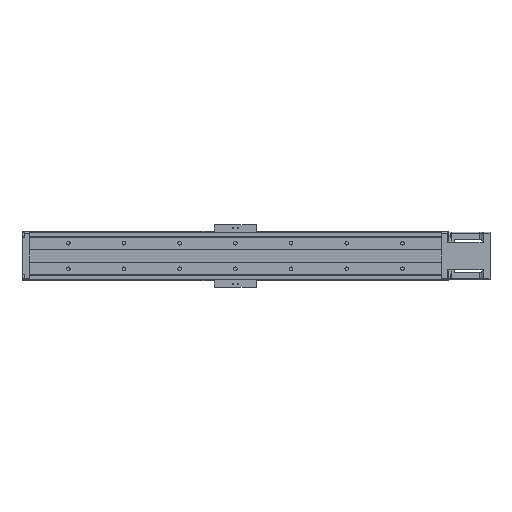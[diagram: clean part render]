
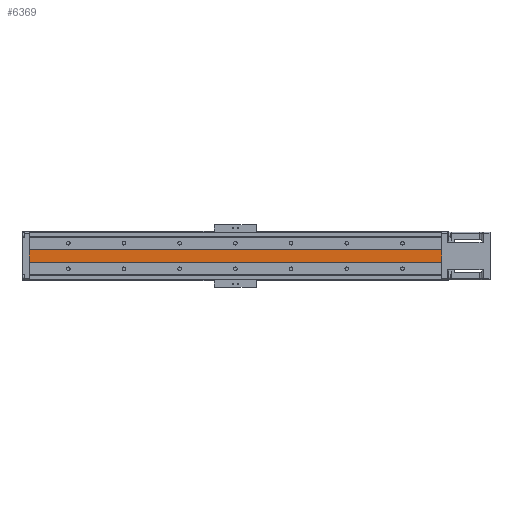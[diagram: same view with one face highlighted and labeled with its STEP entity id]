
A CAD part, front view. The second image highlights one B-rep face of the part: STEP entity #6369.
In plain terms, the highlighted planar face has unit normal (0, -1, 0).
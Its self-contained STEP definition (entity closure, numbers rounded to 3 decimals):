
#523 = CARTESIAN_POINT ( 'NONE',  ( 320., -31.5, -11. ) ) ;
#742 = CARTESIAN_POINT ( 'NONE',  ( 320., -31.5, 11. ) ) ;
#3964 = FACE_OUTER_BOUND ( 'NONE', #7563, .T. ) ;
#3995 = LINE ( 'NONE', #9917, #21104 ) ;
#4938 = LINE ( 'NONE', #4980, #10024 ) ;
#4980 = CARTESIAN_POINT ( 'NONE',  ( -420., -31.5, -5.5 ) ) ;
#5039 = VERTEX_POINT ( 'NONE', #15417 ) ;
#5091 = DIRECTION ( 'NONE',  ( 0., -1., 0. ) ) ;
#6120 = EDGE_CURVE ( 'NONE', #5039, #20554, #3995, .T. ) ;
#6369 = ADVANCED_FACE ( 'NONE', ( #3964 ), #17254, .T. ) ;
#6732 = DIRECTION ( 'NONE',  ( 1., 0., 0. ) ) ;
#7563 = EDGE_LOOP ( 'NONE', ( #8971, #9376, #20283, #26598 ) ) ;
#8022 = VECTOR ( 'NONE', #14176, 1000. ) ;
#8028 = DIRECTION ( 'NONE',  ( 1., 0., 0. ) ) ;
#8971 = ORIENTED_EDGE ( 'NONE', *, *, #13127, .T. ) ;
#9333 = LINE ( 'NONE', #18449, #8022 ) ;
#9376 = ORIENTED_EDGE ( 'NONE', *, *, #16018, .T. ) ;
#9917 = CARTESIAN_POINT ( 'NONE',  ( -420., -31.5, 11. ) ) ;
#10024 = VECTOR ( 'NONE', #21628, 1000. ) ;
#10501 = CARTESIAN_POINT ( 'NONE',  ( 320., -31.5, -11. ) ) ;
#10775 = VERTEX_POINT ( 'NONE', #25260 ) ;
#11257 = DIRECTION ( 'NONE',  ( -1., 0., 0. ) ) ;
#13127 = EDGE_CURVE ( 'NONE', #5039, #10775, #4938, .T. ) ;
#13791 = VECTOR ( 'NONE', #6732, 1000. ) ;
#14176 = DIRECTION ( 'NONE',  ( 0., 0., -1. ) ) ;
#15313 = EDGE_CURVE ( 'NONE', #20554, #24819, #9333, .T. ) ;
#15411 = LINE ( 'NONE', #16741, #13791 ) ;
#15417 = CARTESIAN_POINT ( 'NONE',  ( -420., -31.5, 11. ) ) ;
#16018 = EDGE_CURVE ( 'NONE', #10775, #24819, #15411, .T. ) ;
#16741 = CARTESIAN_POINT ( 'NONE',  ( -420., -31.5, -11. ) ) ;
#17254 = PLANE ( 'NONE',  #20016 ) ;
#18449 = CARTESIAN_POINT ( 'NONE',  ( 320., -31.5, 11. ) ) ;
#20016 = AXIS2_PLACEMENT_3D ( 'NONE', #523, #5091, #11257 ) ;
#20283 = ORIENTED_EDGE ( 'NONE', *, *, #15313, .F. ) ;
#20554 = VERTEX_POINT ( 'NONE', #742 ) ;
#21104 = VECTOR ( 'NONE', #8028, 1000. ) ;
#21628 = DIRECTION ( 'NONE',  ( 0., 0., -1. ) ) ;
#24819 = VERTEX_POINT ( 'NONE', #10501 ) ;
#25260 = CARTESIAN_POINT ( 'NONE',  ( -420., -31.5, -11. ) ) ;
#26598 = ORIENTED_EDGE ( 'NONE', *, *, #6120, .F. ) ;
